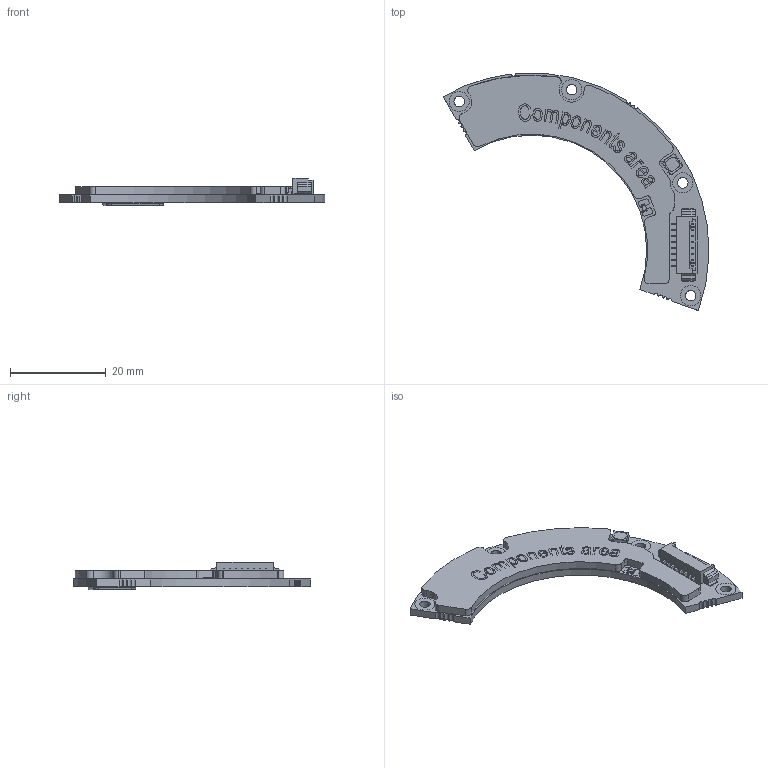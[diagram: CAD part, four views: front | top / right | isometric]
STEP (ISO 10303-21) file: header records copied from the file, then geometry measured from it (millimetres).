
FILE_DESCRIPTION (( 'STEP AP214' ), '1' );
FILE_NAME ('MB064xxxxxxDNx00.STEP', '2024-04-18T09:35:16', ( '' ), ( '' ), 'SwSTEP 2.0', 'SolidWorks 2022', '' );
FILE_SCHEMA (( 'AUTOMOTIVE_DESIGN' ));
Length unit declared in the file: millimetre
Products named in the file (1): MB064xxxxxxDNx00
Bounding box: 55.48 x 49.56 x 5.68 mm (x, y, z)
Volume: 2766 mm3; surface area: 3133.2 mm2
Topology: 4 solids, 4 shells, 826 faces, 2294 edges, 1507 vertices
Faces by surface type: plane 542, cylinder 145, bspline 139
Entity records: 41772 total; most frequent: CARTESIAN_POINT 12134, ORIENTED_EDGE 4588, DIRECTION 3685, EDGE_CURVE 2294, LINE 1725, VECTOR 1725, VERTEX_POINT 1507, AXIS2_PLACEMENT_3D 980
